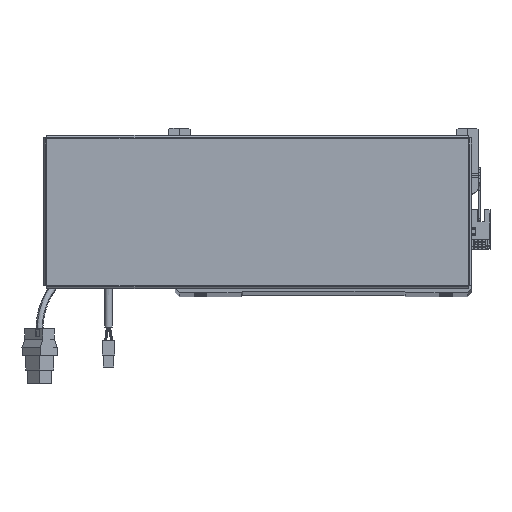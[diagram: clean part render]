
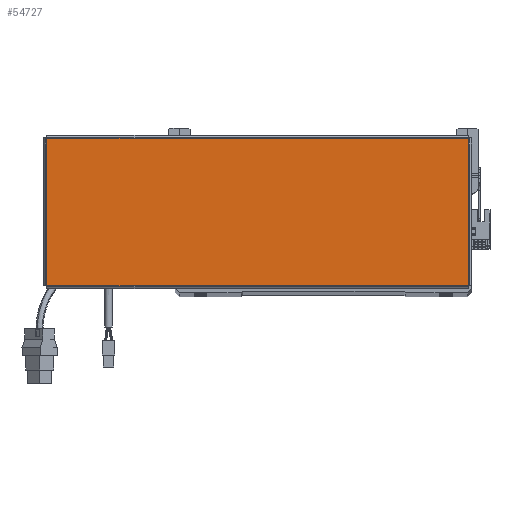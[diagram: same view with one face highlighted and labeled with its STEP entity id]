
A CAD part, top view. The second image highlights one B-rep face of the part: STEP entity #54727.
In plain terms, the highlighted planar face has unit normal (0, 0, 1).
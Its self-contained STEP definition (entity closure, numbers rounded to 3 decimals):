
#363 = EDGE_CURVE ( 'NONE', #43665, #45231, #62981, .T. ) ;
#1043 = PLANE ( 'NONE',  #47425 ) ;
#2540 = CARTESIAN_POINT ( 'NONE',  ( 156.543, 54.763, 0. ) ) ;
#6365 = LINE ( 'NONE', #28696, #57948 ) ;
#9674 = ORIENTED_EDGE ( 'NONE', *, *, #45092, .T. ) ;
#11013 = ORIENTED_EDGE ( 'NONE', *, *, #16543, .T. ) ;
#12729 = DIRECTION ( 'NONE',  ( 1., 0., 0. ) ) ;
#13969 = DIRECTION ( 'NONE',  ( 0., 1., 0. ) ) ;
#16475 = CARTESIAN_POINT ( 'NONE',  ( -156.513, 54.763, 0. ) ) ;
#16543 = EDGE_CURVE ( 'NONE', #41739, #43665, #52485, .T. ) ;
#20694 = DIRECTION ( 'NONE',  ( 1., 0., 0. ) ) ;
#20987 = CARTESIAN_POINT ( 'NONE',  ( 156.513, -54.763, 0. ) ) ;
#25745 = VERTEX_POINT ( 'NONE', #16475 ) ;
#28696 = CARTESIAN_POINT ( 'NONE',  ( -156.513, 54.793, 0. ) ) ;
#29673 = CARTESIAN_POINT ( 'NONE',  ( 0., 0., 0. ) ) ;
#32255 = ORIENTED_EDGE ( 'NONE', *, *, #32954, .T. ) ;
#32954 = EDGE_CURVE ( 'NONE', #25745, #41739, #6365, .T. ) ;
#37890 = VECTOR ( 'NONE', #70456, 1000. ) ;
#37909 = FACE_OUTER_BOUND ( 'NONE', #46858, .T. ) ;
#41739 = VERTEX_POINT ( 'NONE', #46757 ) ;
#43665 = VERTEX_POINT ( 'NONE', #20987 ) ;
#45092 = EDGE_CURVE ( 'NONE', #45231, #25745, #60115, .T. ) ;
#45231 = VERTEX_POINT ( 'NONE', #54506 ) ;
#46280 = VECTOR ( 'NONE', #20694, 1000. ) ;
#46757 = CARTESIAN_POINT ( 'NONE',  ( -156.513, -54.763, 0. ) ) ;
#46784 = DIRECTION ( 'NONE',  ( 0., 0., 1. ) ) ;
#46858 = EDGE_LOOP ( 'NONE', ( #11013, #53161, #9674, #32255 ) ) ;
#47425 = AXIS2_PLACEMENT_3D ( 'NONE', #29673, #46784, #12729 ) ;
#47803 = CARTESIAN_POINT ( 'NONE',  ( 156.513, -54.793, 0. ) ) ;
#47838 = VECTOR ( 'NONE', #13969, 1000. ) ;
#52485 = LINE ( 'NONE', #54271, #46280 ) ;
#53161 = ORIENTED_EDGE ( 'NONE', *, *, #363, .T. ) ;
#54271 = CARTESIAN_POINT ( 'NONE',  ( -156.543, -54.763, 0. ) ) ;
#54506 = CARTESIAN_POINT ( 'NONE',  ( 156.513, 54.763, 0. ) ) ;
#54727 = ADVANCED_FACE ( 'NONE', ( #37909 ), #1043, .T. ) ;
#57948 = VECTOR ( 'NONE', #69197, 1000. ) ;
#60115 = LINE ( 'NONE', #2540, #37890 ) ;
#62981 = LINE ( 'NONE', #47803, #47838 ) ;
#69197 = DIRECTION ( 'NONE',  ( 0., -1., 0. ) ) ;
#70456 = DIRECTION ( 'NONE',  ( -1., 0., 0. ) ) ;
